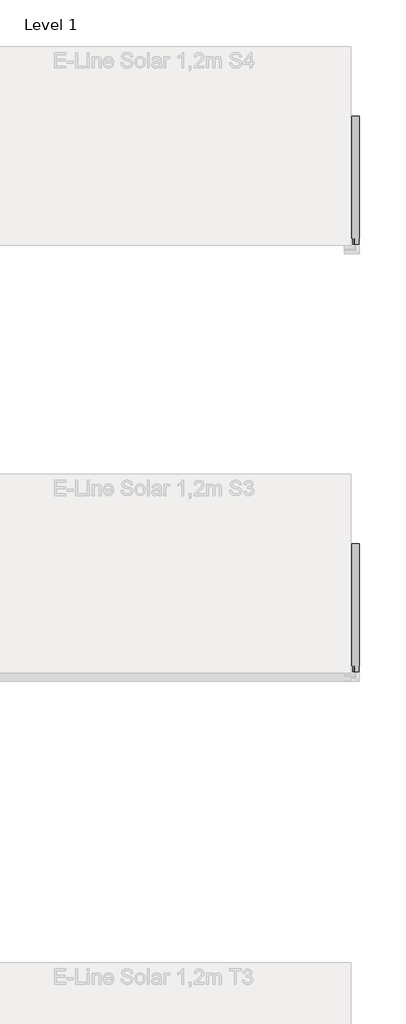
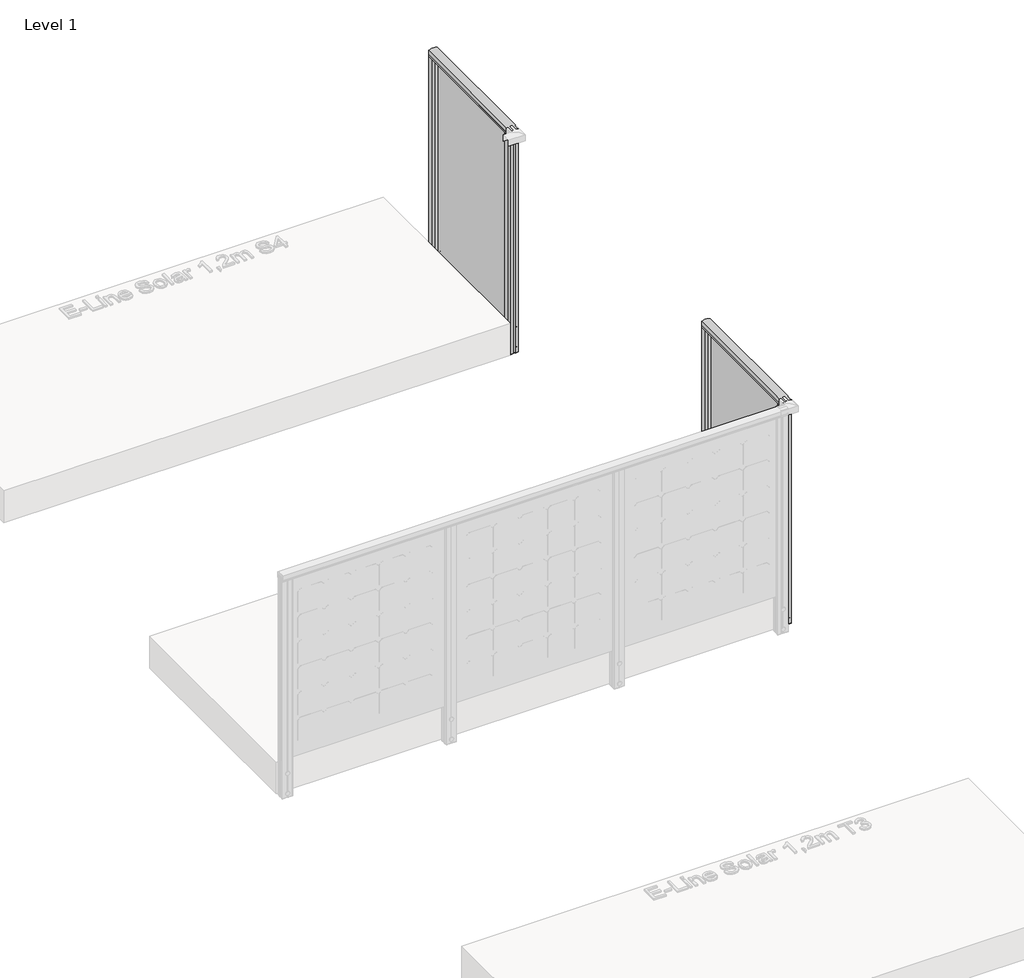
# One storey, part 43 of 66: 2 railings.
"""IFC4 building model written with IfcOpenShell, lengths in millimetres."""

from ifc_helpers import new_model, si_unit, point, frame, frame_2d, origin, place, context, project, spatial, polyline, circle_curve, trimmed, segment, composite_curve, outline, extrude, element, save

model = new_model("IFC4")

# Units and contexts
model_context = context("Model", 3, world=origin())
ifc_project = project(units=[si_unit("LENGTHUNIT", "METRE", prefix="MILLI")], contexts=[model_context])

# Site, building, storey
site = spatial("IfcSite", under=ifc_project)
building = spatial("IfcBuilding", under=site)
storey = spatial("IfcBuildingStorey", under=building, Name="Level 1", Elevation=0.0)

# Railings
placement = place(None, origin())
element("IfcRailing", 1, ObjectType="E-Line Solar 1,2m S3 4 columns of solar elements", at=placement, inside=storey, context=model_context, shape_type="SweptSolid", body=[
    extrude(outline(composite_curve([segment(trimmed(circle_curve(frame_2d((1142.6785502, 26327.2511266)), 57.3235687), [point((1194.1390059, 26352.5060869))], [point((1194.1342258, 26301.9864286))], False, "CARTESIAN"), True, "CONTINUOUS"), segment(polyline([(1194.1342258, 26301.9864286), (1167.0235023, 26301.9864286), (1166.4415706, 26302.5683604), (1165.8194895, 26301.9462793), (1157.2498847, 26301.9462793), (1157.2498847, 26303.7512322), (1180.4998829, 26303.7512322), (1180.4998829, 26350.7462783), (1157.2498847, 26350.7462783), (1157.2498847, 26352.5060869), (1165.9694895, 26352.5060869), (1166.5842725, 26351.8913039), (1167.1990555, 26352.5060869), (1194.1390059, 26352.5060869)]), True, "CONTINUOUS")], self_intersect=False)), frame((0.0, 223.8815979, 0.0), z_axis=(0.0, 1.0, 0.0), x_axis=(0.0, 0.0, 1.0)), (0.0, 0.0, 1.0), 840.0),
    extrude(outline(polyline([(26322.1463105, 1063.8815979), (26330.9063105, 1063.8815979), (26330.9063105, 223.8815979), (26322.1463105, 223.8815979), (26322.1463105, 1063.8815979)])), frame((0.0, 0.0, 28.0), z_axis=(0.0, 0.0, 1.0), x_axis=(1.0, 0.0, 0.0)), (0.0, 0.0, 1.0), 1152.0),
    extrude(outline(polyline([(0.0, 0.0), (16.036927, -16.036927), (16.036927, -139.963073), (0.0, -156.0), (-123.9261459, -156.0), (-139.963073, -139.963073), (-139.963073, -16.036927), (-123.9261459, 0.0), (0.0, 0.0)])), frame((26330.0263105, 807.3815979, 1049.4156895), z_axis=(1.0, 5.811291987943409e-12, 0.0), x_axis=(0.0, 0.0, 1.0)), (0.0, 0.0, 1.0), 1.0),
    extrude(outline(polyline([(0.0, 0.0), (16.036927, -16.036927), (16.036927, -139.963073), (0.0, -156.0), (-123.9261459, -156.0), (-139.963073, -139.963073), (-139.963073, -16.036927), (-123.9261459, 0.0), (0.0, 0.0)])), frame((26330.0263105, 646.3815979, 1049.4156895), z_axis=(1.0, 5.811291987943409e-12, 0.0), x_axis=(0.0, 0.0, 1.0)), (0.0, 0.0, 1.0), 1.0),
    extrude(outline(polyline([(0.0, 0.0), (16.036927, -16.036927), (16.036927, -139.963073), (0.0, -156.0), (-123.9261459, -156.0), (-139.963073, -139.963073), (-139.963073, -16.036927), (-123.9261459, 0.0), (0.0, 0.0)])), frame((26330.0263105, 324.3815979, 1049.4156895), z_axis=(1.0, 5.811291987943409e-12, 0.0), x_axis=(0.0, 0.0, 1.0)), (0.0, 0.0, 1.0), 1.0),
    extrude(outline(polyline([(0.0, 0.0), (16.036927, -16.036927), (16.036927, -139.963073), (0.0, -156.0), (-123.9261459, -156.0), (-139.963073, -139.963073), (-139.963073, -16.036927), (-123.9261459, 0.0), (0.0, 0.0)])), frame((26330.0263105, 485.3815979, 1049.4156895), z_axis=(1.0, 5.811291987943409e-12, 0.0), x_axis=(0.0, 0.0, 1.0)), (0.0, 0.0, 1.0), 1.0),
    extrude(outline(polyline([(0.0, 0.0), (16.036927, -16.036927), (16.036927, -139.963073), (0.0, -156.0), (-123.9261459, -156.0), (-139.963073, -139.963073), (-139.963073, -16.036927), (-123.9261459, 0.0), (0.0, 0.0)])), frame((26330.0263105, 807.3815979, 888.4156895), z_axis=(1.0, 5.811291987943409e-12, 0.0), x_axis=(0.0, 0.0, 1.0)), (0.0, 0.0, 1.0), 1.0),
    extrude(outline(polyline([(0.0, 0.0), (16.036927, -16.036927), (16.036927, -139.963073), (0.0, -156.0), (-123.9261459, -156.0), (-139.963073, -139.963073), (-139.963073, -16.036927), (-123.9261459, 0.0), (0.0, 0.0)])), frame((26330.0263105, 807.3815979, 727.4156895), z_axis=(1.0, 5.811291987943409e-12, 0.0), x_axis=(0.0, 0.0, 1.0)), (0.0, 0.0, 1.0), 1.0),
    extrude(outline(polyline([(0.0, 0.0), (16.036927, -16.036927), (16.036927, -139.963073), (0.0, -156.0), (-123.9261459, -156.0), (-139.963073, -139.963073), (-139.963073, -16.036927), (-123.9261459, 0.0), (0.0, 0.0)])), frame((26330.0263105, 807.3815979, 566.4156895), z_axis=(1.0, 5.811291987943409e-12, 0.0), x_axis=(0.0, 0.0, 1.0)), (0.0, 0.0, 1.0), 1.0),
    extrude(outline(polyline([(0.0, 0.0), (16.036927, -16.036927), (16.036927, -139.963073), (0.0, -156.0), (-123.9261459, -156.0), (-139.963073, -139.963073), (-139.963073, -16.036927), (-123.9261459, 0.0), (0.0, 0.0)])), frame((26330.0263105, 807.3815979, 405.4156895), z_axis=(1.0, 5.811291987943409e-12, 0.0), x_axis=(0.0, 0.0, 1.0)), (0.0, 0.0, 1.0), 1.0),
    extrude(outline(polyline([(0.0, 0.0), (16.036927, -16.036927), (16.036927, -139.963073), (0.0, -156.0), (-123.9261459, -156.0), (-139.963073, -139.963073), (-139.963073, -16.036927), (-123.9261459, 0.0), (0.0, 0.0)])), frame((26330.0263105, 807.3815979, 244.4156895), z_axis=(1.0, 5.811291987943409e-12, 0.0), x_axis=(0.0, 0.0, 1.0)), (0.0, 0.0, 1.0), 1.0),
    extrude(outline(polyline([(0.0, 0.0), (16.036927, -16.036927), (16.036927, -139.963073), (0.0, -156.0), (-123.9261459, -156.0), (-139.963073, -139.963073), (-139.963073, -16.036927), (-123.9261459, 0.0), (0.0, 0.0)])), frame((26330.0263105, 646.3815979, 888.4156895), z_axis=(1.0, 5.811291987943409e-12, 0.0), x_axis=(0.0, 0.0, 1.0)), (0.0, 0.0, 1.0), 1.0),
    extrude(outline(polyline([(0.0, 0.0), (16.036927, -16.036927), (16.036927, -139.963073), (0.0, -156.0), (-123.9261459, -156.0), (-139.963073, -139.963073), (-139.963073, -16.036927), (-123.9261459, 0.0), (0.0, 0.0)])), frame((26330.0263105, 646.3815979, 727.4156895), z_axis=(1.0, 5.811291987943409e-12, 0.0), x_axis=(0.0, 0.0, 1.0)), (0.0, 0.0, 1.0), 1.0),
    extrude(outline(polyline([(0.0, 0.0), (16.036927, -16.036927), (16.036927, -139.963073), (0.0, -156.0), (-123.9261459, -156.0), (-139.963073, -139.963073), (-139.963073, -16.036927), (-123.9261459, 0.0), (0.0, 0.0)])), frame((26330.0263105, 646.3815979, 566.4156895), z_axis=(1.0, 5.811291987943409e-12, 0.0), x_axis=(0.0, 0.0, 1.0)), (0.0, 0.0, 1.0), 1.0),
    extrude(outline(polyline([(0.0, 0.0), (16.036927, -16.036927), (16.036927, -139.963073), (0.0, -156.0), (-123.9261459, -156.0), (-139.963073, -139.963073), (-139.963073, -16.036927), (-123.9261459, 0.0), (0.0, 0.0)])), frame((26330.0263105, 646.3815979, 405.4156895), z_axis=(1.0, 5.811291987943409e-12, 0.0), x_axis=(0.0, 0.0, 1.0)), (0.0, 0.0, 1.0), 1.0),
    extrude(outline(polyline([(0.0, 0.0), (16.036927, -16.036927), (16.036927, -139.963073), (0.0, -156.0), (-123.9261459, -156.0), (-139.963073, -139.963073), (-139.963073, -16.036927), (-123.9261459, 0.0), (0.0, 0.0)])), frame((26330.0263105, 646.3815979, 244.4156895), z_axis=(1.0, 5.811291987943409e-12, 0.0), x_axis=(0.0, 0.0, 1.0)), (0.0, 0.0, 1.0), 1.0),
    extrude(outline(polyline([(0.0, 0.0), (16.036927, -16.036927), (16.036927, -139.963073), (0.0, -156.0), (-123.9261459, -156.0), (-139.963073, -139.963073), (-139.963073, -16.036927), (-123.9261459, 0.0), (0.0, 0.0)])), frame((26330.0263105, 324.3815979, 888.4156895), z_axis=(1.0, 5.811291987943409e-12, 0.0), x_axis=(0.0, 0.0, 1.0)), (0.0, 0.0, 1.0), 1.0),
    extrude(outline(polyline([(0.0, 0.0), (16.036927, -16.036927), (16.036927, -139.963073), (0.0, -156.0), (-123.9261459, -156.0), (-139.963073, -139.963073), (-139.963073, -16.036927), (-123.9261459, 0.0), (0.0, 0.0)])), frame((26330.0263105, 324.3815979, 727.4156895), z_axis=(1.0, 5.811291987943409e-12, 0.0), x_axis=(0.0, 0.0, 1.0)), (0.0, 0.0, 1.0), 1.0),
    extrude(outline(polyline([(0.0, 0.0), (16.036927, -16.036927), (16.036927, -139.963073), (0.0, -156.0), (-123.9261459, -156.0), (-139.963073, -139.963073), (-139.963073, -16.036927), (-123.9261459, 0.0), (0.0, 0.0)])), frame((26330.0263105, 324.3815979, 566.4156895), z_axis=(1.0, 5.811291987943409e-12, 0.0), x_axis=(0.0, 0.0, 1.0)), (0.0, 0.0, 1.0), 1.0),
    extrude(outline(polyline([(0.0, 0.0), (16.036927, -16.036927), (16.036927, -139.963073), (0.0, -156.0), (-123.9261459, -156.0), (-139.963073, -139.963073), (-139.963073, -16.036927), (-123.9261459, 0.0), (0.0, 0.0)])), frame((26330.0263105, 324.3815979, 405.4156895), z_axis=(1.0, 5.811291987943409e-12, 0.0), x_axis=(0.0, 0.0, 1.0)), (0.0, 0.0, 1.0), 1.0),
    extrude(outline(polyline([(0.0, 0.0), (16.036927, -16.036927), (16.036927, -139.963073), (0.0, -156.0), (-123.9261459, -156.0), (-139.963073, -139.963073), (-139.963073, -16.036927), (-123.9261459, 0.0), (0.0, 0.0)])), frame((26330.0263105, 324.3815979, 244.4156895), z_axis=(1.0, 5.811291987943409e-12, 0.0), x_axis=(0.0, 0.0, 1.0)), (0.0, 0.0, 1.0), 1.0),
    extrude(outline(polyline([(0.0, 0.0), (16.036927, -16.036927), (16.036927, -139.963073), (0.0, -156.0), (-123.9261459, -156.0), (-139.963073, -139.963073), (-139.963073, -16.036927), (-123.9261459, 0.0), (0.0, 0.0)])), frame((26330.0263105, 485.3815979, 888.4156895), z_axis=(1.0, 5.811291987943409e-12, 0.0), x_axis=(0.0, 0.0, 1.0)), (0.0, 0.0, 1.0), 1.0),
    extrude(outline(polyline([(0.0, 0.0), (16.036927, -16.036927), (16.036927, -139.963073), (0.0, -156.0), (-123.9261459, -156.0), (-139.963073, -139.963073), (-139.963073, -16.036927), (-123.9261459, 0.0), (0.0, 0.0)])), frame((26330.0263105, 485.3815979, 727.4156895), z_axis=(1.0, 5.811291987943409e-12, 0.0), x_axis=(0.0, 0.0, 1.0)), (0.0, 0.0, 1.0), 1.0),
    extrude(outline(polyline([(0.0, 0.0), (16.036927, -16.036927), (16.036927, -139.963073), (0.0, -156.0), (-123.9261459, -156.0), (-139.963073, -139.963073), (-139.963073, -16.036927), (-123.9261459, 0.0), (0.0, 0.0)])), frame((26330.0263105, 485.3815979, 566.4156895), z_axis=(1.0, 5.811291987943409e-12, 0.0), x_axis=(0.0, 0.0, 1.0)), (0.0, 0.0, 1.0), 1.0),
    extrude(outline(polyline([(0.0, 0.0), (16.036927, -16.036927), (16.036927, -139.963073), (0.0, -156.0), (-123.9261459, -156.0), (-139.963073, -139.963073), (-139.963073, -16.036927), (-123.9261459, 0.0), (0.0, 0.0)])), frame((26330.0263105, 485.3815979, 405.4156895), z_axis=(1.0, 5.811291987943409e-12, 0.0), x_axis=(0.0, 0.0, 1.0)), (0.0, 0.0, 1.0), 1.0),
    extrude(outline(polyline([(0.0, 0.0), (16.036927, -16.036927), (16.036927, -139.963073), (0.0, -156.0), (-123.9261459, -156.0), (-139.963073, -139.963073), (-139.963073, -16.036927), (-123.9261459, 0.0), (0.0, 0.0)])), frame((26330.0263105, 485.3815979, 244.4156895), z_axis=(1.0, 5.811291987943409e-12, 0.0), x_axis=(0.0, 0.0, 1.0)), (0.0, 0.0, 1.0), 1.0),
    extrude(outline(polyline([(26322.1804485, 223.883191), (26304.0354487, 223.8805188), (26304.0311828, 252.8475058), (26305.0593241, 253.87595), (26304.0709345, 254.8640485), (26304.0666613, 283.880524), (26322.1716124, 283.8831903), (26322.1741896, 266.3831905), (26330.9341895, 266.3844806), (26330.9316123, 283.8844804), (26349.0266121, 283.8871452), (26349.030878, 254.9201583), (26348.1125457, 253.8822904), (26348.9909678, 253.004127), (26348.9952559, 223.88714), (26330.9404484, 223.8844811), (26330.9378712, 241.3844809), (26322.1778713, 241.3831908), (26322.1804485, 223.883191)]), holes=[polyline([(26347.0323262, 262.6808129), (26306.0297347, 262.6808129), (26306.0297347, 245.0868512), (26347.0323262, 245.0868512), (26347.0323262, 262.6808129)]), polyline([(26320.17444, 281.8808127), (26306.0269071, 281.8808127), (26306.0269071, 264.682896), (26320.17444, 264.682896), (26320.17444, 281.8808127)]), polyline([(26347.0323262, 281.884775), (26332.9319068, 281.884775), (26332.9319068, 264.6868513), (26347.0323262, 264.6868513), (26347.0323262, 281.884775)]), polyline([(26320.180154, 243.0808132), (26306.0326211, 243.0808132), (26306.0326211, 225.8828965), (26320.180154, 225.8828965), (26320.180154, 243.0808132)]), polyline([(26347.0851537, 243.0847754), (26332.9376209, 243.0847754), (26332.9376209, 225.8868587), (26347.0851537, 225.8868587), (26347.0851537, 243.0847754)])]), frame((0.0, 0.0, -200.0), z_axis=(0.0, 0.0, 1.0), x_axis=(1.0, 0.0, 0.0)), (0.0, 0.0, 1.0), 1381.0),
    extrude(outline(polyline([(26322.1804485, 223.883191), (26304.0354487, 223.8805188), (26304.0311828, 252.8475058), (26305.0593241, 253.87595), (26304.0709345, 254.8640485), (26304.0666613, 283.880524), (26322.1716124, 283.8831903), (26322.1741896, 266.3831905), (26330.9341895, 266.3844806), (26330.9316123, 283.8844804), (26349.0266121, 283.8871452), (26349.030878, 254.9201583), (26348.1125457, 253.8822904), (26348.9909678, 253.004127), (26348.9952559, 223.88714), (26330.9404484, 223.8844811), (26330.9378712, 241.3844809), (26322.1778713, 241.3831908), (26322.1804485, 223.883191)])), frame((0.0, 0.0, -202.0233958), z_axis=(0.0, 0.0, 1.0), x_axis=(1.0, 0.0, 0.0)), (0.0, 0.0, 1.0), 2.0),
    extrude(outline(composite_curve([segment(trimmed(circle_curve(frame_2d((0.0, -12.0)), 12.0), [point((0.0, -23.9999999))], [point((0.0, 0.0))], False, "CARTESIAN"), True, "CONTINUOUS"), segment(trimmed(circle_curve(frame_2d((0.0, -12.0)), 12.0), [point((0.0, 0.0))], [point((0.0, -23.9999999))], False, "CARTESIAN"), True, "CONTINUOUS")], self_intersect=False)), frame((26348.9857756, 265.8906355, -175.0), z_axis=(0.9999999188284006, 0.0004029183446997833, 0.0), x_axis=(0.0, 0.0, -1.0)), (0.0, 0.0, 1.0), 3.0757477),
    extrude(outline(composite_curve([segment(trimmed(circle_curve(frame_2d((0.0, -12.0)), 12.0), [point((0.0, -23.9999999))], [point((0.0, 0.0))], False, "CARTESIAN"), True, "CONTINUOUS"), segment(trimmed(circle_curve(frame_2d((0.0, -12.0)), 12.0), [point((0.0, 0.0))], [point((0.0, -23.9999999))], False, "CARTESIAN"), True, "CONTINUOUS")], self_intersect=False)), frame((26348.9857756, 265.8906355, -50.0), z_axis=(0.9999999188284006, 0.0004029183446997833, 0.0), x_axis=(0.0, 0.0, -1.0)), (0.0, 0.0, 1.0), 3.0757477),
    extrude(outline(polyline([(26322.1804485, 1003.883191), (26304.0354487, 1003.8805188), (26304.0311828, 1032.8475058), (26305.0593241, 1033.87595), (26304.0709345, 1034.8640485), (26304.0666613, 1063.880524), (26322.1716124, 1063.8831903), (26322.1741896, 1046.3831905), (26330.9341895, 1046.3844806), (26330.9316123, 1063.8844804), (26349.0266121, 1063.8871452), (26349.030878, 1034.9201583), (26348.1125457, 1033.8822904), (26348.9909678, 1033.004127), (26348.9952559, 1003.88714), (26330.9404484, 1003.8844811), (26330.9378712, 1021.3844809), (26322.1778713, 1021.3831908), (26322.1804485, 1003.883191)]), holes=[polyline([(26347.0323262, 1042.6808129), (26306.0297347, 1042.6808129), (26306.0297347, 1025.0868512), (26347.0323262, 1025.0868512), (26347.0323262, 1042.6808129)]), polyline([(26320.17444, 1061.8808127), (26306.0269071, 1061.8808127), (26306.0269071, 1044.682896), (26320.17444, 1044.682896), (26320.17444, 1061.8808127)]), polyline([(26347.0323262, 1061.884775), (26332.9319068, 1061.884775), (26332.9319068, 1044.6868513), (26347.0323262, 1044.6868513), (26347.0323262, 1061.884775)]), polyline([(26320.180154, 1023.0808132), (26306.0326211, 1023.0808132), (26306.0326211, 1005.8828965), (26320.180154, 1005.8828965), (26320.180154, 1023.0808132)]), polyline([(26347.0851537, 1023.0847754), (26332.9376209, 1023.0847754), (26332.9376209, 1005.8868587), (26347.0851537, 1005.8868587), (26347.0851537, 1023.0847754)])]), frame((0.0, 0.0, -200.0), z_axis=(0.0, 0.0, 1.0), x_axis=(1.0, 0.0, 0.0)), (0.0, 0.0, 1.0), 1381.0),
    extrude(outline(polyline([(26322.1804485, 1003.883191), (26304.0354487, 1003.8805188), (26304.0311828, 1032.8475058), (26305.0593241, 1033.87595), (26304.0709345, 1034.8640485), (26304.0666613, 1063.880524), (26322.1716124, 1063.8831903), (26322.1741896, 1046.3831905), (26330.9341895, 1046.3844806), (26330.9316123, 1063.8844804), (26349.0266121, 1063.8871452), (26349.030878, 1034.9201583), (26348.1125457, 1033.8822904), (26348.9909678, 1033.004127), (26348.9952559, 1003.88714), (26330.9404484, 1003.8844811), (26330.9378712, 1021.3844809), (26322.1778713, 1021.3831908), (26322.1804485, 1003.883191)])), frame((0.0, 0.0, -202.0233958), z_axis=(0.0, 0.0, 1.0), x_axis=(1.0, 0.0, 0.0)), (0.0, 0.0, 1.0), 2.0),
    extrude(outline(composite_curve([segment(trimmed(circle_curve(frame_2d((0.0, -12.0)), 12.0), [point((0.0, -23.9999999))], [point((0.0, 0.0))], False, "CARTESIAN"), True, "CONTINUOUS"), segment(trimmed(circle_curve(frame_2d((0.0, -12.0)), 12.0), [point((0.0, 0.0))], [point((0.0, -23.9999999))], False, "CARTESIAN"), True, "CONTINUOUS")], self_intersect=False)), frame((26348.9857756, 1045.8906355, -175.0), z_axis=(0.9999999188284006, 0.0004029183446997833, 0.0), x_axis=(0.0, 0.0, -1.0)), (0.0, 0.0, 1.0), 3.0757477),
    extrude(outline(composite_curve([segment(trimmed(circle_curve(frame_2d((0.0, -12.0)), 12.0), [point((0.0, -23.9999999))], [point((0.0, 0.0))], False, "CARTESIAN"), True, "CONTINUOUS"), segment(trimmed(circle_curve(frame_2d((0.0, -12.0)), 12.0), [point((0.0, 0.0))], [point((0.0, -23.9999999))], False, "CARTESIAN"), True, "CONTINUOUS")], self_intersect=False)), frame((26348.9857756, 1045.8906355, -50.0), z_axis=(0.9999999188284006, 0.0004029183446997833, 0.0), x_axis=(0.0, 0.0, -1.0)), (0.0, 0.0, 1.0), 3.0757477),
])
element("IfcRailing", 2, ObjectType="E-Line Solar 1,2m S4 4 columns of solar elements", at=placement, inside=storey, context=model_context, shape_type="SweptSolid", body=[
    extrude(outline(composite_curve([segment(trimmed(circle_curve(frame_2d((1142.6785502, 26327.2511266)), 57.3235687), [point((1194.1390059, 26352.5060869))], [point((1194.1342258, 26301.9864286))], False, "CARTESIAN"), True, "CONTINUOUS"), segment(polyline([(1194.1342258, 26301.9864286), (1167.0235023, 26301.9864286), (1166.4415706, 26302.5683604), (1165.8194895, 26301.9462793), (1157.2498847, 26301.9462793), (1157.2498847, 26303.7512322), (1180.4998829, 26303.7512322), (1180.4998829, 26350.7462783), (1157.2498847, 26350.7462783), (1157.2498847, 26352.5060869), (1165.9694895, 26352.5060869), (1166.5842725, 26351.8913039), (1167.1990555, 26352.5060869), (1194.1390059, 26352.5060869)]), True, "CONTINUOUS")], self_intersect=False)), frame((0.0, 3023.8815979, 0.0), z_axis=(0.0, 1.0, 0.0), x_axis=(0.0, 0.0, 1.0)), (0.0, 0.0, 1.0), 840.0),
    extrude(outline(polyline([(26325.5582447, 3863.8815979), (26327.4219276, 3863.8815979), (26327.4219276, 3023.8815979), (26325.5582447, 3023.8815979), (26325.5582447, 3863.8815979)])), frame((0.0, 0.0, -200.0), z_axis=(0.0, 0.0, 1.0), x_axis=(1.0, 0.0, 0.0)), (0.0, 0.0, 1.0), 1.1703418),
    extrude(outline(polyline([(26322.1463105, 3863.8815979), (26330.9063105, 3863.8815979), (26330.9063105, 3023.8815979), (26322.1463105, 3023.8815979), (26322.1463105, 3863.8815979)])), frame((0.0, 0.0, -200.0), z_axis=(0.0, 0.0, 1.0), x_axis=(1.0, 0.0, 0.0)), (0.0, 0.0, 1.0), 1380.0),
    extrude(outline(polyline([(0.0, 0.0), (16.036927, -16.036927), (16.036927, -139.963073), (0.0, -156.0), (-123.9261459, -156.0), (-139.963073, -139.963073), (-139.963073, -16.036927), (-123.9261459, 0.0), (0.0, 0.0)])), frame((26330.0263105, 3607.3815979, 1096.4156895), z_axis=(1.0, 5.811291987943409e-12, 0.0), x_axis=(0.0, 0.0, 1.0)), (0.0, 0.0, 1.0), 1.0),
    extrude(outline(polyline([(0.0, 0.0), (16.036927, -16.036927), (16.036927, -139.963073), (0.0, -156.0), (-123.9261459, -156.0), (-139.963073, -139.963073), (-139.963073, -16.036927), (-123.9261459, 0.0), (0.0, 0.0)])), frame((26330.0263105, 3446.3815979, 1096.4156895), z_axis=(1.0, 5.811291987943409e-12, 0.0), x_axis=(0.0, 0.0, 1.0)), (0.0, 0.0, 1.0), 1.0),
    extrude(outline(polyline([(0.0, 0.0), (16.036927, -16.036927), (16.036927, -139.963073), (0.0, -156.0), (-123.9261459, -156.0), (-139.963073, -139.963073), (-139.963073, -16.036927), (-123.9261459, 0.0), (0.0, 0.0)])), frame((26330.0263105, 3124.3815979, 1096.4156895), z_axis=(1.0, 5.811291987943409e-12, 0.0), x_axis=(0.0, 0.0, 1.0)), (0.0, 0.0, 1.0), 1.0),
    extrude(outline(polyline([(0.0, 0.0), (16.036927, -16.036927), (16.036927, -139.963073), (0.0, -156.0), (-123.9261459, -156.0), (-139.963073, -139.963073), (-139.963073, -16.036927), (-123.9261459, 0.0), (0.0, 0.0)])), frame((26330.0263105, 3285.3815979, 1096.4156895), z_axis=(1.0, 5.811291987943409e-12, 0.0), x_axis=(0.0, 0.0, 1.0)), (0.0, 0.0, 1.0), 1.0),
    extrude(outline(polyline([(0.0, 0.0), (16.036927, -16.036927), (16.036927, -139.963073), (0.0, -156.0), (-123.9261459, -156.0), (-139.963073, -139.963073), (-139.963073, -16.036927), (-123.9261459, 0.0), (0.0, 0.0)])), frame((26330.0263105, 3607.3815979, 935.4156895), z_axis=(1.0, 5.811291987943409e-12, 0.0), x_axis=(0.0, 0.0, 1.0)), (0.0, 0.0, 1.0), 1.0),
    extrude(outline(polyline([(0.0, 0.0), (16.036927, -16.036927), (16.036927, -139.963073), (0.0, -156.0), (-123.9261459, -156.0), (-139.963073, -139.963073), (-139.963073, -16.036927), (-123.9261459, 0.0), (0.0, 0.0)])), frame((26330.0263105, 3446.3815979, 935.4156895), z_axis=(1.0, 5.811291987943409e-12, 0.0), x_axis=(0.0, 0.0, 1.0)), (0.0, 0.0, 1.0), 1.0),
    extrude(outline(polyline([(0.0, 0.0), (16.036927, -16.036927), (16.036927, -139.963073), (0.0, -156.0), (-123.9261459, -156.0), (-139.963073, -139.963073), (-139.963073, -16.036927), (-123.9261459, 0.0), (0.0, 0.0)])), frame((26330.0263105, 3124.3815979, 935.4156895), z_axis=(1.0, 5.811291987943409e-12, 0.0), x_axis=(0.0, 0.0, 1.0)), (0.0, 0.0, 1.0), 1.0),
    extrude(outline(polyline([(0.0, 0.0), (16.036927, -16.036927), (16.036927, -139.963073), (0.0, -156.0), (-123.9261459, -156.0), (-139.963073, -139.963073), (-139.963073, -16.036927), (-123.9261459, 0.0), (0.0, 0.0)])), frame((26330.0263105, 3285.3815979, 935.4156895), z_axis=(1.0, 5.811291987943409e-12, 0.0), x_axis=(0.0, 0.0, 1.0)), (0.0, 0.0, 1.0), 1.0),
    extrude(outline(polyline([(0.0, 0.0), (16.036927, -16.036927), (16.036927, -139.963073), (0.0, -156.0), (-123.9261459, -156.0), (-139.963073, -139.963073), (-139.963073, -16.036927), (-123.9261459, 0.0), (0.0, 0.0)])), frame((26330.0263105, 3607.3815979, 774.4156895), z_axis=(1.0, 5.811291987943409e-12, 0.0), x_axis=(0.0, 0.0, 1.0)), (0.0, 0.0, 1.0), 1.0),
    extrude(outline(polyline([(0.0, 0.0), (16.036927, -16.036927), (16.036927, -139.963073), (0.0, -156.0), (-123.9261459, -156.0), (-139.963073, -139.963073), (-139.963073, -16.036927), (-123.9261459, 0.0), (0.0, 0.0)])), frame((26330.0263105, 3446.3815979, 774.4156895), z_axis=(1.0, 5.811291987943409e-12, 0.0), x_axis=(0.0, 0.0, 1.0)), (0.0, 0.0, 1.0), 1.0),
    extrude(outline(polyline([(0.0, 0.0), (16.036927, -16.036927), (16.036927, -139.963073), (0.0, -156.0), (-123.9261459, -156.0), (-139.963073, -139.963073), (-139.963073, -16.036927), (-123.9261459, 0.0), (0.0, 0.0)])), frame((26330.0263105, 3124.3815979, 774.4156895), z_axis=(1.0, 5.811291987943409e-12, 0.0), x_axis=(0.0, 0.0, 1.0)), (0.0, 0.0, 1.0), 1.0),
    extrude(outline(polyline([(0.0, 0.0), (16.036927, -16.036927), (16.036927, -139.963073), (0.0, -156.0), (-123.9261459, -156.0), (-139.963073, -139.963073), (-139.963073, -16.036927), (-123.9261459, 0.0), (0.0, 0.0)])), frame((26330.0263105, 3285.3815979, 774.4156895), z_axis=(1.0, 5.811291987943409e-12, 0.0), x_axis=(0.0, 0.0, 1.0)), (0.0, 0.0, 1.0), 1.0),
    extrude(outline(polyline([(0.0, 0.0), (16.036927, -16.036927), (16.036927, -139.963073), (0.0, -156.0), (-123.9261459, -156.0), (-139.963073, -139.963073), (-139.963073, -16.036927), (-123.9261459, 0.0), (0.0, 0.0)])), frame((26330.0263105, 3607.3815979, 613.4156895), z_axis=(1.0, 5.811291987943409e-12, 0.0), x_axis=(0.0, 0.0, 1.0)), (0.0, 0.0, 1.0), 1.0),
    extrude(outline(polyline([(0.0, 0.0), (16.036927, -16.036927), (16.036927, -139.963073), (0.0, -156.0), (-123.9261459, -156.0), (-139.963073, -139.963073), (-139.963073, -16.036927), (-123.9261459, 0.0), (0.0, 0.0)])), frame((26330.0263105, 3607.3815979, 452.4156895), z_axis=(1.0, 5.811291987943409e-12, 0.0), x_axis=(0.0, 0.0, 1.0)), (0.0, 0.0, 1.0), 1.0),
    extrude(outline(polyline([(0.0, 0.0), (16.036927, -16.036927), (16.036927, -139.963073), (0.0, -156.0), (-123.9261459, -156.0), (-139.963073, -139.963073), (-139.963073, -16.036927), (-123.9261459, 0.0), (0.0, 0.0)])), frame((26330.0263105, 3607.3815979, 291.4156895), z_axis=(1.0, 5.811291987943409e-12, 0.0), x_axis=(0.0, 0.0, 1.0)), (0.0, 0.0, 1.0), 1.0),
    extrude(outline(polyline([(0.0, 0.0), (16.036927, -16.036927), (16.036927, -139.963073), (0.0, -156.0), (-123.9261459, -156.0), (-139.963073, -139.963073), (-139.963073, -16.036927), (-123.9261459, 0.0), (0.0, 0.0)])), frame((26330.0263105, 3607.3815979, 130.4156895), z_axis=(1.0, 5.811291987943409e-12, 0.0), x_axis=(0.0, 0.0, 1.0)), (0.0, 0.0, 1.0), 1.0),
    extrude(outline(polyline([(0.0, 0.0), (16.036927, -16.036927), (16.036927, -139.963073), (0.0, -156.0), (-123.9261459, -156.0), (-139.963073, -139.963073), (-139.963073, -16.036927), (-123.9261459, 0.0), (0.0, 0.0)])), frame((26330.0263105, 3607.3815979, -30.5843105), z_axis=(1.0, 5.811291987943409e-12, 0.0), x_axis=(0.0, 0.0, 1.0)), (0.0, 0.0, 1.0), 1.0),
    extrude(outline(polyline([(0.0, 0.0), (16.036927, -16.036927), (16.036927, -139.963073), (0.0, -156.0), (-123.9261459, -156.0), (-139.963073, -139.963073), (-139.963073, -16.036927), (-123.9261459, 0.0), (0.0, 0.0)])), frame((26330.0263105, 3446.3815979, 613.4156895), z_axis=(1.0, 5.811291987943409e-12, 0.0), x_axis=(0.0, 0.0, 1.0)), (0.0, 0.0, 1.0), 1.0),
    extrude(outline(polyline([(0.0, 0.0), (16.036927, -16.036927), (16.036927, -139.963073), (0.0, -156.0), (-123.9261459, -156.0), (-139.963073, -139.963073), (-139.963073, -16.036927), (-123.9261459, 0.0), (0.0, 0.0)])), frame((26330.0263105, 3446.3815979, 452.4156895), z_axis=(1.0, 5.811291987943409e-12, 0.0), x_axis=(0.0, 0.0, 1.0)), (0.0, 0.0, 1.0), 1.0),
    extrude(outline(polyline([(0.0, 0.0), (16.036927, -16.036927), (16.036927, -139.963073), (0.0, -156.0), (-123.9261459, -156.0), (-139.963073, -139.963073), (-139.963073, -16.036927), (-123.9261459, 0.0), (0.0, 0.0)])), frame((26330.0263105, 3446.3815979, 291.4156895), z_axis=(1.0, 5.811291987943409e-12, 0.0), x_axis=(0.0, 0.0, 1.0)), (0.0, 0.0, 1.0), 1.0),
    extrude(outline(polyline([(0.0, 0.0), (16.036927, -16.036927), (16.036927, -139.963073), (0.0, -156.0), (-123.9261459, -156.0), (-139.963073, -139.963073), (-139.963073, -16.036927), (-123.9261459, 0.0), (0.0, 0.0)])), frame((26330.0263105, 3446.3815979, 130.4156895), z_axis=(1.0, 5.811291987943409e-12, 0.0), x_axis=(0.0, 0.0, 1.0)), (0.0, 0.0, 1.0), 1.0),
    extrude(outline(polyline([(0.0, 0.0), (16.036927, -16.036927), (16.036927, -139.963073), (0.0, -156.0), (-123.9261459, -156.0), (-139.963073, -139.963073), (-139.963073, -16.036927), (-123.9261459, 0.0), (0.0, 0.0)])), frame((26330.0263105, 3446.3815979, -30.5843105), z_axis=(1.0, 5.811291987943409e-12, 0.0), x_axis=(0.0, 0.0, 1.0)), (0.0, 0.0, 1.0), 1.0),
    extrude(outline(polyline([(0.0, 0.0), (16.036927, -16.036927), (16.036927, -139.963073), (0.0, -156.0), (-123.9261459, -156.0), (-139.963073, -139.963073), (-139.963073, -16.036927), (-123.9261459, 0.0), (0.0, 0.0)])), frame((26330.0263105, 3124.3815979, 613.4156895), z_axis=(1.0, 5.811291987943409e-12, 0.0), x_axis=(0.0, 0.0, 1.0)), (0.0, 0.0, 1.0), 1.0),
    extrude(outline(polyline([(0.0, 0.0), (16.036927, -16.036927), (16.036927, -139.963073), (0.0, -156.0), (-123.9261459, -156.0), (-139.963073, -139.963073), (-139.963073, -16.036927), (-123.9261459, 0.0), (0.0, 0.0)])), frame((26330.0263105, 3124.3815979, 452.4156895), z_axis=(1.0, 5.811291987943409e-12, 0.0), x_axis=(0.0, 0.0, 1.0)), (0.0, 0.0, 1.0), 1.0),
    extrude(outline(polyline([(0.0, 0.0), (16.036927, -16.036927), (16.036927, -139.963073), (0.0, -156.0), (-123.9261459, -156.0), (-139.963073, -139.963073), (-139.963073, -16.036927), (-123.9261459, 0.0), (0.0, 0.0)])), frame((26330.0263105, 3124.3815979, 291.4156895), z_axis=(1.0, 5.811291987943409e-12, 0.0), x_axis=(0.0, 0.0, 1.0)), (0.0, 0.0, 1.0), 1.0),
    extrude(outline(polyline([(0.0, 0.0), (16.036927, -16.036927), (16.036927, -139.963073), (0.0, -156.0), (-123.9261459, -156.0), (-139.963073, -139.963073), (-139.963073, -16.036927), (-123.9261459, 0.0), (0.0, 0.0)])), frame((26330.0263105, 3124.3815979, 130.4156895), z_axis=(1.0, 5.811291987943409e-12, 0.0), x_axis=(0.0, 0.0, 1.0)), (0.0, 0.0, 1.0), 1.0),
    extrude(outline(polyline([(0.0, 0.0), (16.036927, -16.036927), (16.036927, -139.963073), (0.0, -156.0), (-123.9261459, -156.0), (-139.963073, -139.963073), (-139.963073, -16.036927), (-123.9261459, 0.0), (0.0, 0.0)])), frame((26330.0263105, 3124.3815979, -30.5843105), z_axis=(1.0, 5.811291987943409e-12, 0.0), x_axis=(0.0, 0.0, 1.0)), (0.0, 0.0, 1.0), 1.0),
    extrude(outline(polyline([(0.0, 0.0), (16.036927, -16.036927), (16.036927, -139.963073), (0.0, -156.0), (-123.9261459, -156.0), (-139.963073, -139.963073), (-139.963073, -16.036927), (-123.9261459, 0.0), (0.0, 0.0)])), frame((26330.0263105, 3285.3815979, 613.4156895), z_axis=(1.0, 5.811291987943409e-12, 0.0), x_axis=(0.0, 0.0, 1.0)), (0.0, 0.0, 1.0), 1.0),
    extrude(outline(polyline([(0.0, 0.0), (16.036927, -16.036927), (16.036927, -139.963073), (0.0, -156.0), (-123.9261459, -156.0), (-139.963073, -139.963073), (-139.963073, -16.036927), (-123.9261459, 0.0), (0.0, 0.0)])), frame((26330.0263105, 3285.3815979, 452.4156895), z_axis=(1.0, 5.811291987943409e-12, 0.0), x_axis=(0.0, 0.0, 1.0)), (0.0, 0.0, 1.0), 1.0),
    extrude(outline(polyline([(0.0, 0.0), (16.036927, -16.036927), (16.036927, -139.963073), (0.0, -156.0), (-123.9261459, -156.0), (-139.963073, -139.963073), (-139.963073, -16.036927), (-123.9261459, 0.0), (0.0, 0.0)])), frame((26330.0263105, 3285.3815979, 291.4156895), z_axis=(1.0, 5.811291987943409e-12, 0.0), x_axis=(0.0, 0.0, 1.0)), (0.0, 0.0, 1.0), 1.0),
    extrude(outline(polyline([(0.0, 0.0), (16.036927, -16.036927), (16.036927, -139.963073), (0.0, -156.0), (-123.9261459, -156.0), (-139.963073, -139.963073), (-139.963073, -16.036927), (-123.9261459, 0.0), (0.0, 0.0)])), frame((26330.0263105, 3285.3815979, 130.4156895), z_axis=(1.0, 5.811291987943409e-12, 0.0), x_axis=(0.0, 0.0, 1.0)), (0.0, 0.0, 1.0), 1.0),
    extrude(outline(polyline([(0.0, 0.0), (16.036927, -16.036927), (16.036927, -139.963073), (0.0, -156.0), (-123.9261459, -156.0), (-139.963073, -139.963073), (-139.963073, -16.036927), (-123.9261459, 0.0), (0.0, 0.0)])), frame((26330.0263105, 3285.3815979, -30.5843105), z_axis=(1.0, 5.811291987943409e-12, 0.0), x_axis=(0.0, 0.0, 1.0)), (0.0, 0.0, 1.0), 1.0),
    extrude(outline(polyline([(26322.1804485, 3023.883191), (26304.0354487, 3023.8805188), (26304.0311828, 3052.8475058), (26305.0593241, 3053.87595), (26304.0709345, 3054.8640485), (26304.0666613, 3083.880524), (26322.1716124, 3083.8831903), (26322.1741896, 3066.3831905), (26330.9341895, 3066.3844806), (26330.9316123, 3083.8844804), (26349.0266121, 3083.8871452), (26349.030878, 3054.9201583), (26348.1125457, 3053.8822904), (26348.9909678, 3053.004127), (26348.9952559, 3023.88714), (26330.9404484, 3023.8844811), (26330.9378712, 3041.3844809), (26322.1778713, 3041.3831908), (26322.1804485, 3023.883191)]), holes=[polyline([(26347.0323262, 3062.6808129), (26306.0297347, 3062.6808129), (26306.0297347, 3045.0868512), (26347.0323262, 3045.0868512), (26347.0323262, 3062.6808129)]), polyline([(26320.17444, 3081.8808127), (26306.0269071, 3081.8808127), (26306.0269071, 3064.682896), (26320.17444, 3064.682896), (26320.17444, 3081.8808127)]), polyline([(26347.0323262, 3081.884775), (26332.9319068, 3081.884775), (26332.9319068, 3064.6868513), (26347.0323262, 3064.6868513), (26347.0323262, 3081.884775)]), polyline([(26320.180154, 3043.0808132), (26306.0326211, 3043.0808132), (26306.0326211, 3025.8828965), (26320.180154, 3025.8828965), (26320.180154, 3043.0808132)]), polyline([(26347.0851537, 3043.0847754), (26332.9376209, 3043.0847754), (26332.9376209, 3025.8868587), (26347.0851537, 3025.8868587), (26347.0851537, 3043.0847754)])]), frame((0.0, 0.0, -200.0), z_axis=(0.0, 0.0, 1.0), x_axis=(1.0, 0.0, 0.0)), (0.0, 0.0, 1.0), 1381.0),
    extrude(outline(polyline([(26322.1804485, 3023.883191), (26304.0354487, 3023.8805188), (26304.0311828, 3052.8475058), (26305.0593241, 3053.87595), (26304.0709345, 3054.8640485), (26304.0666613, 3083.880524), (26322.1716124, 3083.8831903), (26322.1741896, 3066.3831905), (26330.9341895, 3066.3844806), (26330.9316123, 3083.8844804), (26349.0266121, 3083.8871452), (26349.030878, 3054.9201583), (26348.1125457, 3053.8822904), (26348.9909678, 3053.004127), (26348.9952559, 3023.88714), (26330.9404484, 3023.8844811), (26330.9378712, 3041.3844809), (26322.1778713, 3041.3831908), (26322.1804485, 3023.883191)])), frame((0.0, 0.0, -202.0233958), z_axis=(0.0, 0.0, 1.0), x_axis=(1.0, 0.0, 0.0)), (0.0, 0.0, 1.0), 2.0),
    extrude(outline(composite_curve([segment(trimmed(circle_curve(frame_2d((0.0, -12.0)), 12.0), [point((0.0, -23.9999999))], [point((0.0, 0.0))], False, "CARTESIAN"), True, "CONTINUOUS"), segment(trimmed(circle_curve(frame_2d((0.0, -12.0)), 12.0), [point((0.0, 0.0))], [point((0.0, -23.9999999))], False, "CARTESIAN"), True, "CONTINUOUS")], self_intersect=False)), frame((26348.9857756, 3065.8906355, -175.0), z_axis=(0.9999999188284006, 0.0004029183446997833, 0.0), x_axis=(0.0, 0.0, -1.0)), (0.0, 0.0, 1.0), 3.0757477),
    extrude(outline(composite_curve([segment(trimmed(circle_curve(frame_2d((0.0, -12.0)), 12.0), [point((0.0, -23.9999999))], [point((0.0, 0.0))], False, "CARTESIAN"), True, "CONTINUOUS"), segment(trimmed(circle_curve(frame_2d((0.0, -12.0)), 12.0), [point((0.0, 0.0))], [point((0.0, -23.9999999))], False, "CARTESIAN"), True, "CONTINUOUS")], self_intersect=False)), frame((26348.9857756, 3065.8906355, -50.0), z_axis=(0.9999999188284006, 0.0004029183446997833, 0.0), x_axis=(0.0, 0.0, -1.0)), (0.0, 0.0, 1.0), 3.0757477),
    extrude(outline(polyline([(26322.1804485, 3803.883191), (26304.0354487, 3803.8805188), (26304.0311828, 3832.8475058), (26305.0593241, 3833.87595), (26304.0709345, 3834.8640485), (26304.0666613, 3863.880524), (26322.1716124, 3863.8831903), (26322.1741896, 3846.3831905), (26330.9341895, 3846.3844806), (26330.9316123, 3863.8844804), (26349.0266121, 3863.8871452), (26349.030878, 3834.9201583), (26348.1125457, 3833.8822904), (26348.9909678, 3833.004127), (26348.9952559, 3803.88714), (26330.9404484, 3803.8844811), (26330.9378712, 3821.3844809), (26322.1778713, 3821.3831908), (26322.1804485, 3803.883191)]), holes=[polyline([(26347.0323262, 3842.6808129), (26306.0297347, 3842.6808129), (26306.0297347, 3825.0868512), (26347.0323262, 3825.0868512), (26347.0323262, 3842.6808129)]), polyline([(26320.17444, 3861.8808127), (26306.0269071, 3861.8808127), (26306.0269071, 3844.682896), (26320.17444, 3844.682896), (26320.17444, 3861.8808127)]), polyline([(26347.0323262, 3861.884775), (26332.9319068, 3861.884775), (26332.9319068, 3844.6868513), (26347.0323262, 3844.6868513), (26347.0323262, 3861.884775)]), polyline([(26320.180154, 3823.0808132), (26306.0326211, 3823.0808132), (26306.0326211, 3805.8828965), (26320.180154, 3805.8828965), (26320.180154, 3823.0808132)]), polyline([(26347.0851537, 3823.0847754), (26332.9376209, 3823.0847754), (26332.9376209, 3805.8868587), (26347.0851537, 3805.8868587), (26347.0851537, 3823.0847754)])]), frame((0.0, 0.0, -200.0), z_axis=(0.0, 0.0, 1.0), x_axis=(1.0, 0.0, 0.0)), (0.0, 0.0, 1.0), 1381.0),
    extrude(outline(polyline([(26322.1804485, 3803.883191), (26304.0354487, 3803.8805188), (26304.0311828, 3832.8475058), (26305.0593241, 3833.87595), (26304.0709345, 3834.8640485), (26304.0666613, 3863.880524), (26322.1716124, 3863.8831903), (26322.1741896, 3846.3831905), (26330.9341895, 3846.3844806), (26330.9316123, 3863.8844804), (26349.0266121, 3863.8871452), (26349.030878, 3834.9201583), (26348.1125457, 3833.8822904), (26348.9909678, 3833.004127), (26348.9952559, 3803.88714), (26330.9404484, 3803.8844811), (26330.9378712, 3821.3844809), (26322.1778713, 3821.3831908), (26322.1804485, 3803.883191)])), frame((0.0, 0.0, -202.0233958), z_axis=(0.0, 0.0, 1.0), x_axis=(1.0, 0.0, 0.0)), (0.0, 0.0, 1.0), 2.0),
    extrude(outline(composite_curve([segment(trimmed(circle_curve(frame_2d((0.0, -12.0)), 12.0), [point((0.0, -23.9999999))], [point((0.0, 0.0))], False, "CARTESIAN"), True, "CONTINUOUS"), segment(trimmed(circle_curve(frame_2d((0.0, -12.0)), 12.0), [point((0.0, 0.0))], [point((0.0, -23.9999999))], False, "CARTESIAN"), True, "CONTINUOUS")], self_intersect=False)), frame((26348.9857756, 3845.8906355, -175.0), z_axis=(0.9999999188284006, 0.0004029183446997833, 0.0), x_axis=(0.0, 0.0, -1.0)), (0.0, 0.0, 1.0), 3.0757477),
    extrude(outline(composite_curve([segment(trimmed(circle_curve(frame_2d((0.0, -12.0)), 12.0), [point((0.0, -23.9999999))], [point((0.0, 0.0))], False, "CARTESIAN"), True, "CONTINUOUS"), segment(trimmed(circle_curve(frame_2d((0.0, -12.0)), 12.0), [point((0.0, 0.0))], [point((0.0, -23.9999999))], False, "CARTESIAN"), True, "CONTINUOUS")], self_intersect=False)), frame((26348.9857756, 3845.8906355, -50.0), z_axis=(0.9999999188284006, 0.0004029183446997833, 0.0), x_axis=(0.0, 0.0, -1.0)), (0.0, 0.0, 1.0), 3.0757477),
])

save(model, "model.ifc")
